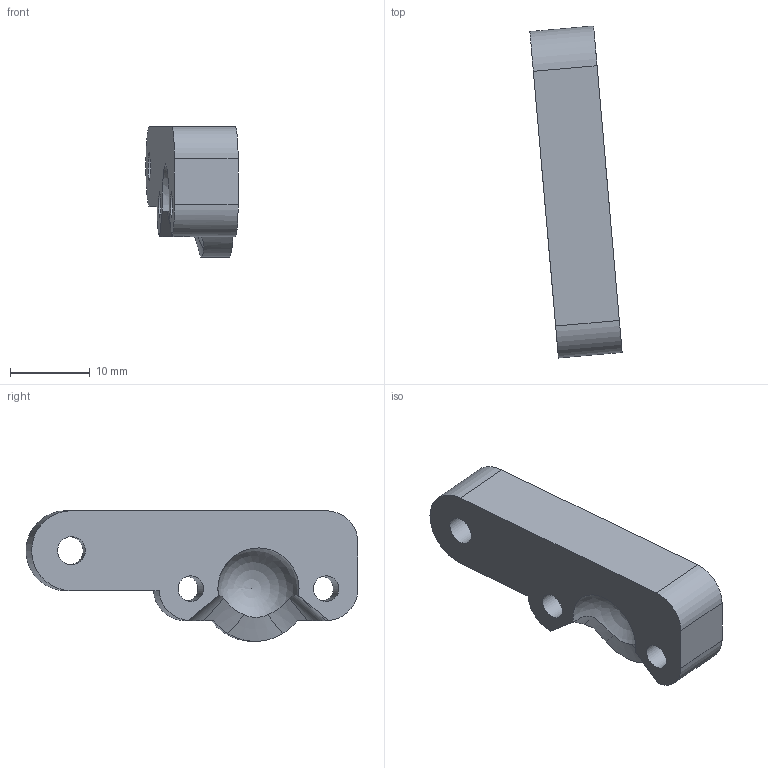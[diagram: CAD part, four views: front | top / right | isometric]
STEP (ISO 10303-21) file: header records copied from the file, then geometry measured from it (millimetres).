
FILE_DESCRIPTION(/* description */ (''),/* implementation_level */ '2;1');
FILE_NAME(/* name */ '4-37-1 Upper chassis socket right.step',/* time_stamp */ '2025-05-10T22:20:13+02:00',/* author */ (''),/* organization */ (''),/* preprocessor_version */ 'ST-DEVELOPER v20.1',/* originating_system */ 'Autodesk Translation Framework v14.4.0.0',/* authorisation */ '');
FILE_SCHEMA (('AUTOMOTIVE_DESIGN { 1 0 10303 214 3 1 1 }'));
Length unit declared in the file: millimetre
Products named in the file (1): Upper chassis socket right
Bounding box: 11.54 x 41.54 x 16.33 mm (x, y, z)
Volume: 3266.9 mm3; surface area: 2064.8 mm2
Topology: 1 solids, 1 shells, 27 faces, 74 edges, 49 vertices
Faces by surface type: cylinder 12, plane 10, cone 2, bspline 2, sphere 1
Full cylindrical faces by diameter (mm): 3 x1, 3.2 x2, 3.5 x1, 7.1 x1
Entity records: 998 total; most frequent: CARTESIAN_POINT 256, DIRECTION 148, ORIENTED_EDGE 146, EDGE_CURVE 73, AXIS2_PLACEMENT_3D 61, VERTEX_POINT 49, EDGE_LOOP 34, CIRCLE 29
